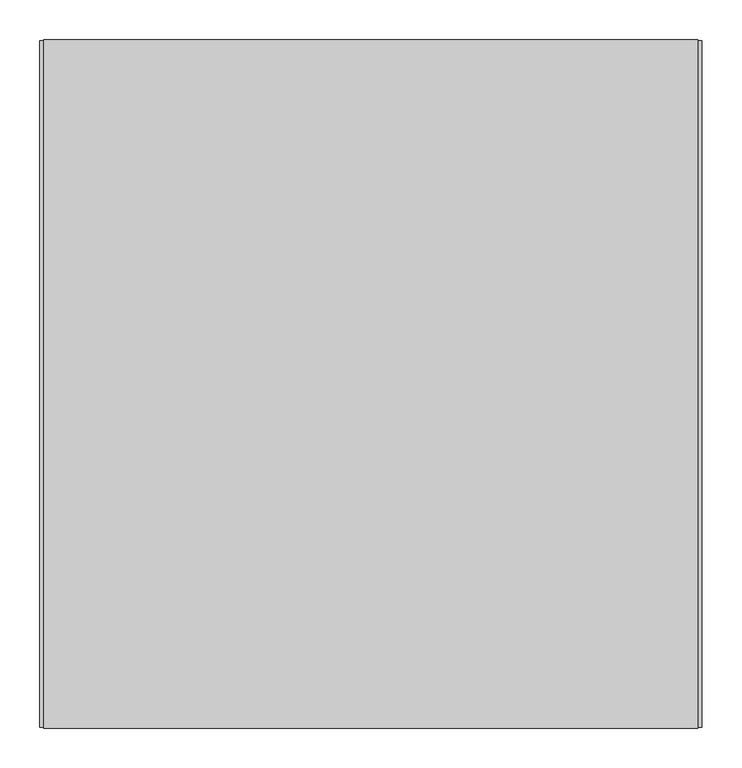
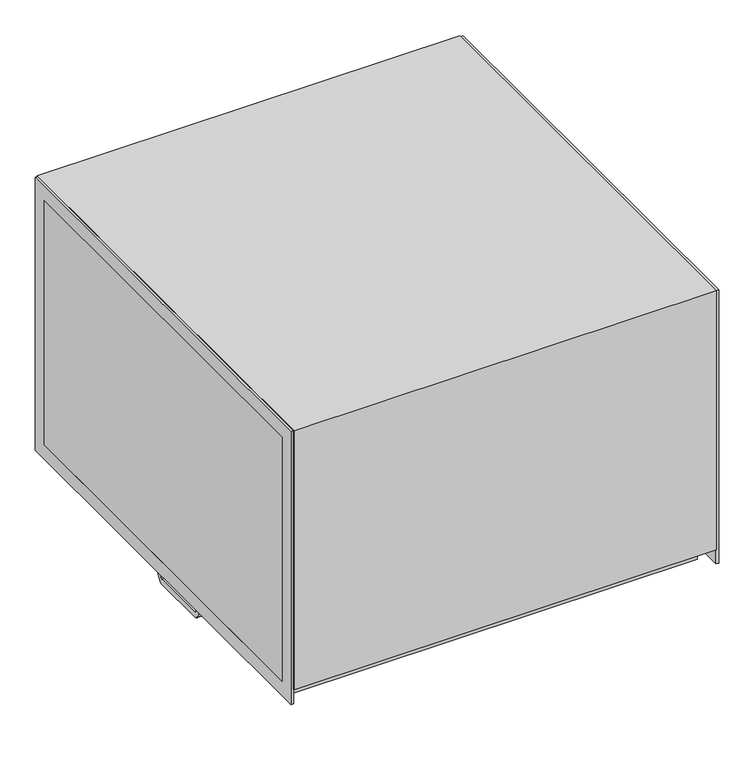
"""IFC4 building model written with IfcOpenShell, lengths in millimetres: unitary equipment geometry, VE-Wentylator-ParaForma-Harmann-DRBI-Nawiewny : 080/50/8200T."""

from ifc_helpers import new_model, si_unit, point, frame, frame_2d, origin, place, context, project, spatial, polyline, circle_curve, trimmed, segment, composite_curve, outline, extrude, faceted_brep, source, transform, mapped, element, save


def unitary_equipment_5d32bfe2(model_context):
    return source(origin(), model_context, "Body", "SolidModel", [
        faceted_brep([(-402.7, -395.5, -285.5), (-402.7, -395.5, -250.0), (-402.7, 395.5, -250.0), (-402.7, 395.5, -285.5), (393.3, -395.5, -285.5), (393.3, 395.5, -285.5), (393.3, 395.5, -250.0), (393.3, -395.5, -250.0), (-410.0, -431.0, -250.0), (-410.0, -431.0, 281.0), (-410.0, 431.0, 281.0), (-410.0, 431.0, -250.0), (-410.0, 400.0, -250.0), (-410.0, 400.0, 250.0), (-410.0, -400.0, 250.0), (-410.0, -400.0, -250.0), (410.0, 431.0, -250.0), (410.0, 431.0, 281.0), (410.0, -431.0, 281.0), (410.0, -431.0, -250.0), (410.0, -400.0, -250.0), (410.0, -400.0, 250.0), (410.0, 400.0, 250.0), (410.0, 400.0, -250.0), (-415.0, -400.0, -250.0), (-415.0, 400.0, -250.0), (415.0, 400.0, -250.0), (415.0, -400.0, -250.0), (-415.0, -400.0, 250.0), (-415.0, 400.0, 250.0), (415.0, 400.0, 250.0), (415.0, -400.0, 250.0)], [[[0, 1, 2, 3]], [[4, 5, 6, 7]], [[1, 0, 4, 7]], [[3, 2, 6, 5]], [[0, 3, 5, 4]], [[8, 9, 10, 11, 12, 13, 14, 15]], [[16, 17, 18, 19, 20, 21, 22, 23]], [[9, 8, 19, 18]], [[10, 9, 18, 17]], [[11, 10, 17, 16]], [[19, 8, 15, 24, 25, 12, 11, 16, 23, 26, 27, 20], [2, 1, 7, 6]], [[24, 28, 29, 25]], [[28, 24, 15, 14]], [[29, 28, 14, 13]], [[25, 29, 13, 12]], [[27, 26, 30, 31]], [[27, 31, 21, 20]], [[31, 30, 22, 21]], [[30, 26, 23, 22]]]),
        extrude(outline(polyline([(-430.0, -280.0), (-430.0, 280.0), (430.0, 280.0), (430.0, -280.0), (-430.0, -280.0)]), holes=[polyline([(-400.0, -250.0), (400.0, -250.0), (400.0, 250.0), (-400.0, 250.0), (-400.0, -250.0)])]), frame((410.0, 0.0, 0.0), z_axis=(1.0, 0.0, 0.0), x_axis=(0.0, 1.0, 0.0)), (0.0, 0.0, 1.0), 5.0),
        extrude(outline(polyline([(-430.0, -280.0), (-430.0, 280.0), (430.0, 280.0), (430.0, -280.0), (-430.0, -280.0)]), holes=[polyline([(-400.0, -250.0), (400.0, -250.0), (400.0, 250.0), (-400.0, 250.0), (-400.0, -250.0)])]), frame((-415.0, 0.0, 0.0), z_axis=(1.0, 0.0, 0.0), x_axis=(0.0, 1.0, 0.0)), (0.0, 0.0, 1.0), 5.0),
        extrude(outline(composite_curve([segment(polyline([(-85.0, -298.5), (-85.0, -285.5), (-60.0, -285.5), (-60.0, -322.5)]), True, "CONTINUOUS"), segment(trimmed(circle_curve(frame_2d((-55.0, -322.5)), 5.0), [point((-60.0, -322.5))], [point((-55.0, -327.5))], True, "CARTESIAN"), True, "CONTINUOUS"), segment(polyline([(-55.0, -327.5), (55.0, -327.5)]), True, "CONTINUOUS"), segment(trimmed(circle_curve(frame_2d((55.0, -322.5)), 5.0), [point((55.0, -327.5))], [point((60.0, -322.5))], True, "CARTESIAN"), True, "CONTINUOUS"), segment(polyline([(60.0, -322.5), (60.0, -285.5), (85.0, -285.5), (85.0, -298.5), (61.4754291, -335.1983306)]), True, "CONTINUOUS"), segment(trimmed(circle_curve(frame_2d((57.2660334, -332.5)), 5.0), [point((61.4754291, -335.1983306))], [point((57.2660334, -337.5))], False, "CARTESIAN"), True, "CONTINUOUS"), segment(polyline([(57.2660334, -337.5), (-57.2660334, -337.5)]), True, "CONTINUOUS"), segment(trimmed(circle_curve(frame_2d((-57.2660334, -332.5)), 5.0), [point((-57.2660334, -337.5))], [point((-61.4754291, -335.1983306))], False, "CARTESIAN"), True, "CONTINUOUS"), segment(polyline([(-61.4754291, -335.1983306), (-85.0, -298.5)]), True, "CONTINUOUS")], self_intersect=False)), frame((-385.3, 0.0, 0.0), z_axis=(1.0, 0.0, 0.0), x_axis=(0.0, 1.0, 0.0)), (0.0, 0.0, 1.0), 28.0),
        extrude(outline(composite_curve([segment(polyline([(380.3, -27.5), (295.3, -27.5)]), True, "CONTINUOUS"), segment(trimmed(circle_curve(frame_2d((295.3, -22.5)), 5.0), [point((295.3, -27.5))], [point((290.3, -22.5))], False, "CARTESIAN"), True, "CONTINUOUS"), segment(polyline([(290.3, -22.5), (290.3, 77.5)]), True, "CONTINUOUS"), segment(trimmed(circle_curve(frame_2d((295.3, 77.5)), 5.0), [point((290.3, 77.5))], [point((295.3, 82.5))], False, "CARTESIAN"), True, "CONTINUOUS"), segment(polyline([(295.3, 82.5), (380.3, 82.5)]), True, "CONTINUOUS"), segment(trimmed(circle_curve(frame_2d((380.3, 77.5)), 5.0), [point((380.3, 82.5))], [point((385.3, 77.5))], False, "CARTESIAN"), True, "CONTINUOUS"), segment(polyline([(385.3, 77.5), (385.3, -22.5)]), True, "CONTINUOUS"), segment(trimmed(circle_curve(frame_2d((380.3, -22.5)), 5.0), [point((385.3, -22.5))], [point((380.3, -27.5))], False, "CARTESIAN"), True, "CONTINUOUS")], self_intersect=False)), frame((0.0, 0.0, -335.0), z_axis=(0.0, 0.0, 1.0), x_axis=(1.0, 0.0, 0.0)), (0.0, 0.0, 1.0), 49.5),
    ])


if __name__ == "__main__":
    model = new_model("IFC4")
    model_context = context("Model", 3, world=origin())
    ifc_project = project(units=[si_unit("LENGTHUNIT", "METRE", prefix="MILLI")], contexts=[model_context])
    site = spatial("IfcSite", under=ifc_project)
    building = spatial("IfcBuilding", under=site)
    placement = place(None, origin())
    unitary_equipment_shape = unitary_equipment_5d32bfe2(model_context)
    element("IfcUnitaryEquipment", 1, ObjectType="VE-Wentylator-ParaForma-Harmann-DRBI-Nawiewny : 080/50/8200T", at=placement, inside=building, context=model_context, shape_type="MappedRepresentation", body=[
        mapped(unitary_equipment_shape, transform((0.0, 0.0, 0.0), x_axis=(1.0, 0.0, 0.0), y_axis=(0.0, 1.0, 0.0), z_axis=(0.0, 0.0, 1.0))),
    ])
    save(model, "model.ifc")
